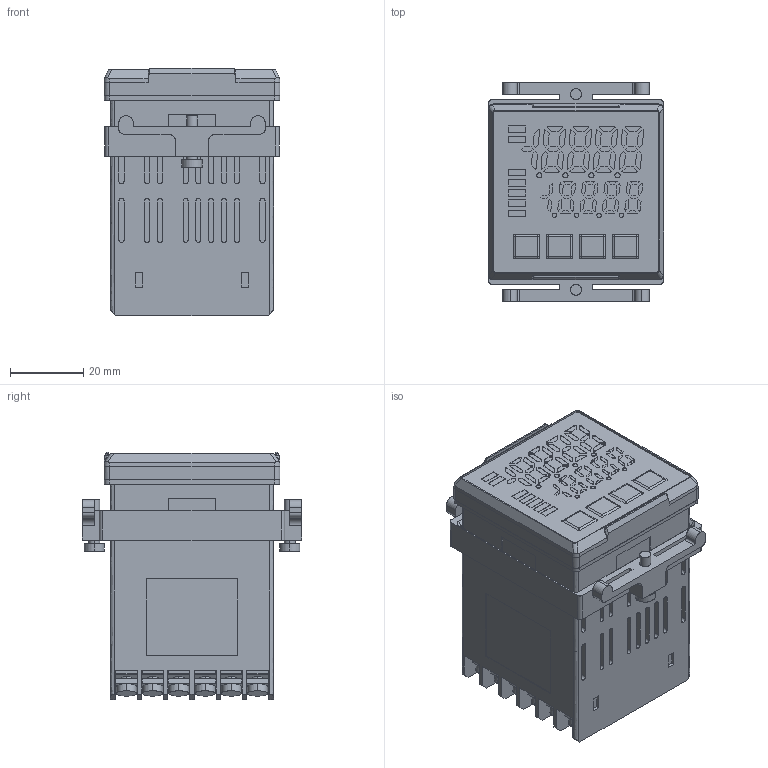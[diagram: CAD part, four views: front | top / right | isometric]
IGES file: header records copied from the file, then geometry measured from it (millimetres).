
Start section: SolidWorks IGES file using analytic representation for surfaces
Global section: file name: \\DJ3203\mecha_3d\B\BCS2\D14-010\HP_3D\BCS2_iges\AS_BCS2_141107.IGS; native system: SolidWorks 2013; preprocessor: SolidWorks 2013; author: soyama; date: 141128.161121; units: millimetre
Bounding box: 48 x 60 x 67.5 mm (x, y, z)
Surface area: 31971.8 mm2 (no closed solid volume)
Topology: 0 solids, 0 shells, 1464 faces, 12250 edges, 12250 vertices
Faces by surface type: bspline 1046, revolution 418
